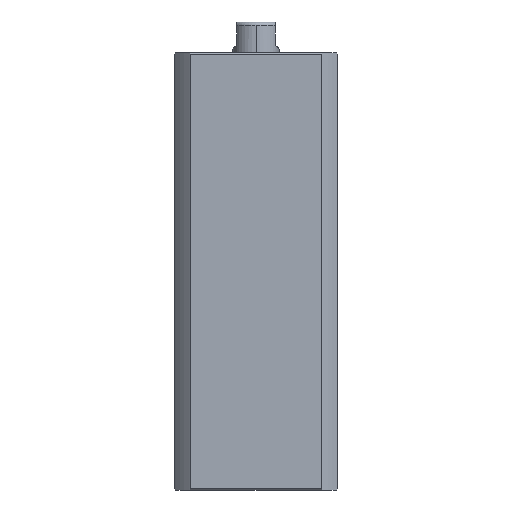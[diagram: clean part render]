
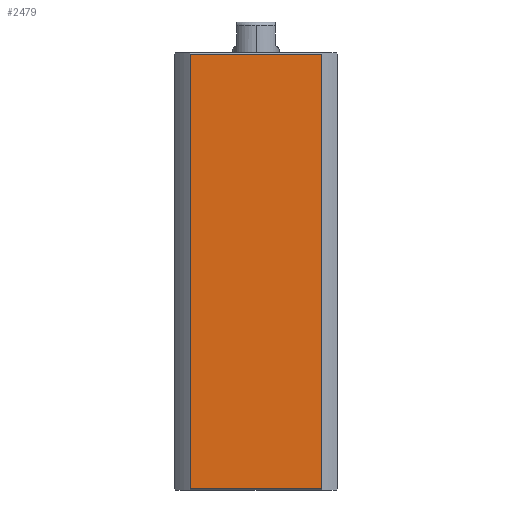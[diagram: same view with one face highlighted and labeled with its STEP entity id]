
A CAD part, left-side view. The second image highlights one B-rep face of the part: STEP entity #2479.
In plain terms, the highlighted planar face has unit normal (-1, 0, 0).
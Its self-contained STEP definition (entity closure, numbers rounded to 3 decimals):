
#4 = ORIENTED_EDGE ( 'NONE', *, *, #277, .F. ) ;
#18 = CARTESIAN_POINT ( 'NONE',  ( -21., -16.971, 0.3 ) ) ;
#277 = EDGE_CURVE ( 'NONE', #7492, #2239, #974, .T. ) ;
#282 = ORIENTED_EDGE ( 'NONE', *, *, #8312, .T. ) ;
#822 = VECTOR ( 'NONE', #6400, 1000. ) ;
#974 = LINE ( 'NONE', #6077, #10259 ) ;
#1732 = VECTOR ( 'NONE', #2867, 1000. ) ;
#2239 = VERTEX_POINT ( 'NONE', #18 ) ;
#2479 = ADVANCED_FACE ( 'NONE', ( #5164 ), #5984, .F. ) ;
#2683 = EDGE_CURVE ( 'NONE', #11382, #2239, #7421, .T. ) ;
#2867 = DIRECTION ( 'NONE',  ( 0., 1., 0. ) ) ;
#3934 = ORIENTED_EDGE ( 'NONE', *, *, #2683, .T. ) ;
#4648 = CARTESIAN_POINT ( 'NONE',  ( -21., 21., 112.7 ) ) ;
#4742 = VECTOR ( 'NONE', #10118, 1000. ) ;
#5164 = FACE_OUTER_BOUND ( 'NONE', #7078, .T. ) ;
#5187 = DIRECTION ( 'NONE',  ( 0., 1., 0. ) ) ;
#5201 = DIRECTION ( 'NONE',  ( 1., 0., 0. ) ) ;
#5482 = CARTESIAN_POINT ( 'NONE',  ( -21., 16.971, -142. ) ) ;
#5682 = EDGE_CURVE ( 'NONE', #11382, #6715, #7383, .T. ) ;
#5984 = PLANE ( 'NONE',  #6504 ) ;
#6023 = CARTESIAN_POINT ( 'NONE',  ( -21., 21., 113. ) ) ;
#6077 = CARTESIAN_POINT ( 'NONE',  ( -21., -16.971, -142. ) ) ;
#6376 = DIRECTION ( 'NONE',  ( 0., 0., -1. ) ) ;
#6395 = CARTESIAN_POINT ( 'NONE',  ( -21., 16.971, 0.3 ) ) ;
#6400 = DIRECTION ( 'NONE',  ( 0., -1., 0. ) ) ;
#6504 = AXIS2_PLACEMENT_3D ( 'NONE', #6023, #5201, #5187 ) ;
#6715 = VERTEX_POINT ( 'NONE', #10190 ) ;
#6867 = CARTESIAN_POINT ( 'NONE',  ( -21., -16.971, 112.7 ) ) ;
#7078 = EDGE_LOOP ( 'NONE', ( #11376, #3934, #4, #282 ) ) ;
#7383 = LINE ( 'NONE', #5482, #4742 ) ;
#7421 = LINE ( 'NONE', #10228, #822 ) ;
#7492 = VERTEX_POINT ( 'NONE', #6867 ) ;
#8312 = EDGE_CURVE ( 'NONE', #7492, #6715, #11322, .T. ) ;
#10118 = DIRECTION ( 'NONE',  ( 0., 0., 1. ) ) ;
#10190 = CARTESIAN_POINT ( 'NONE',  ( -21., 16.971, 112.7 ) ) ;
#10228 = CARTESIAN_POINT ( 'NONE',  ( -21., 21., 0.3 ) ) ;
#10259 = VECTOR ( 'NONE', #6376, 1000. ) ;
#11322 = LINE ( 'NONE', #4648, #1732 ) ;
#11376 = ORIENTED_EDGE ( 'NONE', *, *, #5682, .F. ) ;
#11382 = VERTEX_POINT ( 'NONE', #6395 ) ;
